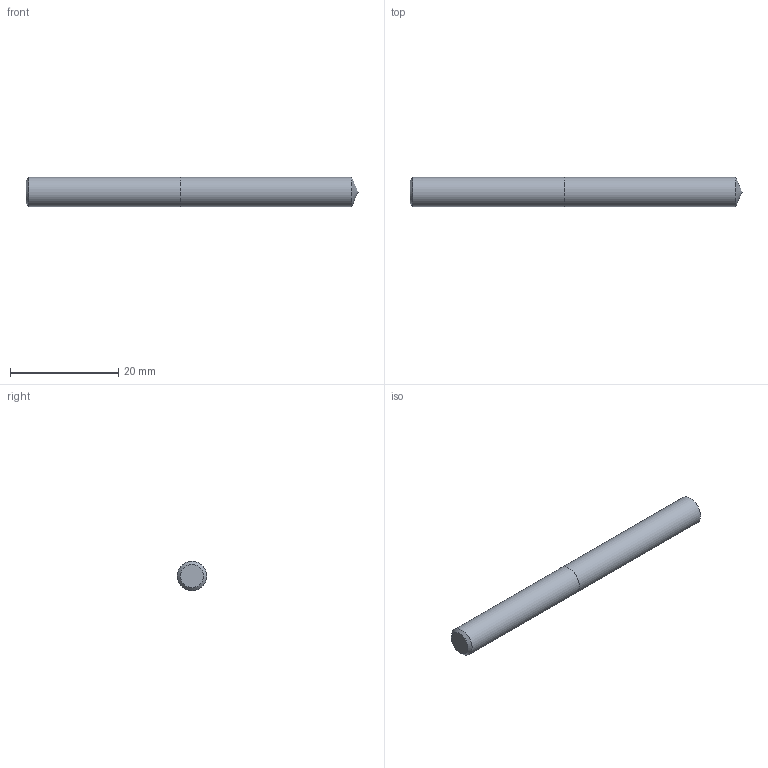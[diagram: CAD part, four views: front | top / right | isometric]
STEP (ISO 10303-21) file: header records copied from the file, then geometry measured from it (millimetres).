
FILE_DESCRIPTION (( 'STEP AP214' ), '1' );
FILE_NAME ('03-2345.STEP', '2022-06-03T06:30:46', ( 'USER' ), ( '' ), 'SwSTEP 2.0', 'SolidWorks 2018', '' );
FILE_SCHEMA (( 'AUTOMOTIVE_DESIGN' ));
Length unit declared in the file: inch
Products named in the file (1): 03-2345
Bounding box: 61.45 x 5.41 x 5.41 mm (x, y, z)
Volume: 1393.1 mm3; surface area: 1113.4 mm2
Topology: 2 solids, 2 shells, 7 faces, 11 edges, 7 vertices
Faces by surface type: plane 3, cylinder 2, cone 2
Full cylindrical faces by diameter (mm): 5.41 x2
Entity records: 214 total; most frequent: DIRECTION 26, CARTESIAN_POINT 18, AXIS2_PLACEMENT_3D 13, EDGE_LOOP 10, ORIENTED_EDGE 10, FACE_OUTER_BOUND 9, LENGTH_MEASURE_WITH_UNIT 7, UNCERTAINTY_MEASURE_WITH_UNIT 7
